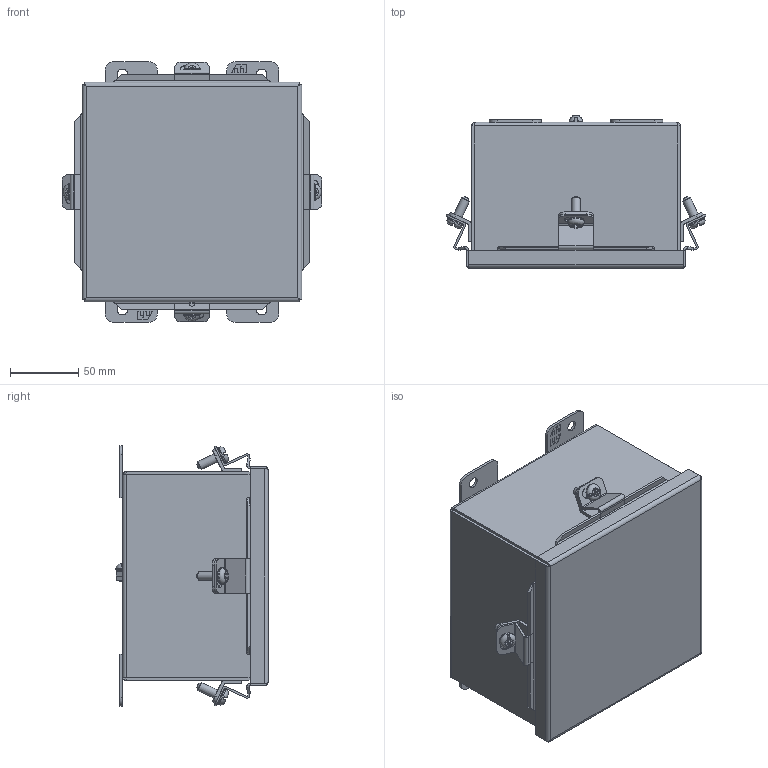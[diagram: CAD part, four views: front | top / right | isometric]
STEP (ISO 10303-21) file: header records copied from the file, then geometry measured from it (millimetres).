
FILE_DESCRIPTION(/* description */ ('Unknown'),/* implementation_level */ '2;1');
FILE_NAME(/* name */ '1414N4SSE',/* time_stamp */ '2018-11-22T13:54:32-05:00',/* author */ ('Unknown'),/* organization */ ('Unknown'),/* preprocessor_version */ 'ST-DEVELOPER v16.7',/* originating_system */ 'DEX',/* authorisation */ $);
FILE_SCHEMA (('AUTOMOTIVE_DESIGN {1 0 10303 214 3 1 1}'));
Length unit declared in the file: millimetre
Products named in the file (19): 1414N4SSE; COM42864; COM50851; STD26154; scs19420; COM42960; QLB20278; KIT90770; LAB30005; NTS16500; NTS17050; scs18968; COM54168-3; STD26202; BUL10020; COM70220_oa_0; COM40176; COM52631
Assembly tree (34 placements, depth 3):
  1414N4SSE
    COM42864
    COM50851  x4
    STD26154  x4
    scs19420  x4
    COM42960
    QLB20278
    KIT90770
      LAB30005
      NTS16500
      NTS17050
      scs18968
    COM54168-3
      STD26202
      COM54168-3
    STD26202
    BUL10020
    COM70220_oa_0
    COM40176  x4
    COM52631  x4
Bounding box: 189.86 x 111.49 x 190.5 mm (x, y, z)
Volume: 319576.2 mm3; surface area: 357782.7 mm2
Topology: 30 solids, 31 shells, 900 faces, 2259 edges, 1442 vertices
Faces by surface type: plane 609, cylinder 177, bspline 56, cone 44, torus 14
Full cylindrical faces by diameter (mm): 3.967 x6, 4.699 x1, 4.826 x2, 5.41 x4, 6.35 x6, 6.731 x4, 7.938 x4, 9.525 x4, 9.779 x1, 12.192 x4
Entity records: 16800 total; most frequent: CARTESIAN_POINT 4999, ORIENTED_EDGE 2378, DIRECTION 2188, EDGE_CURVE 1189, LINE 764, VECTOR 764, VERTEX_POINT 754, AXIS2_PLACEMENT_3D 712
